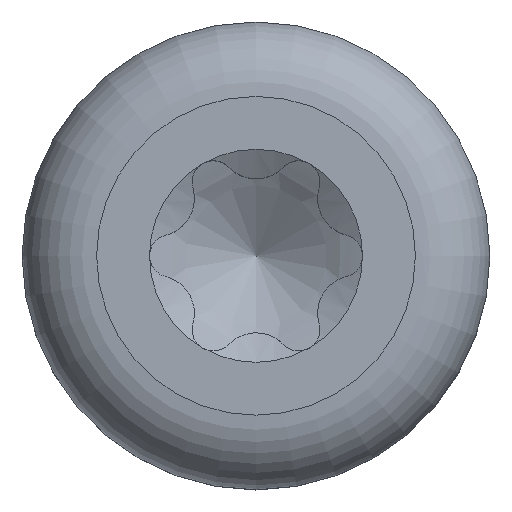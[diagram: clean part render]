
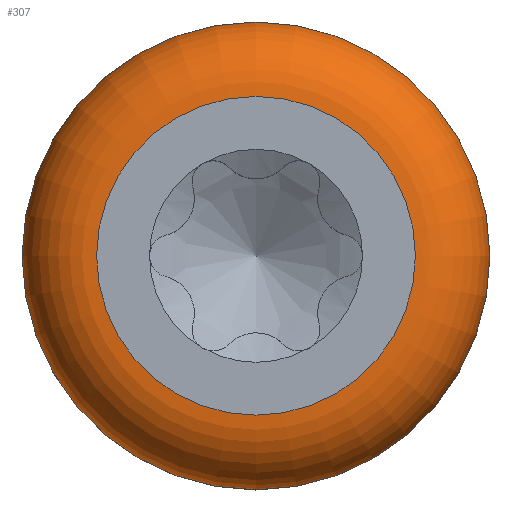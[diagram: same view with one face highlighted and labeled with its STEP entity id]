
A CAD part, top view. The second image highlights one B-rep face of the part: STEP entity #307.
In plain terms, the highlighted toroidal (fillet/blend) face has major radius 4.19 mm and minor radius 1.96 mm.
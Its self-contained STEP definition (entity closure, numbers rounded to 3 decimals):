
#276=TOROIDAL_SURFACE('',#1570,4.19,1.96);
#287=FACE_BOUND('',#512,.T.);
#288=FACE_BOUND('',#513,.T.);
#307=ADVANCED_FACE('',(#287,#288),#276,.T.);
#512=EDGE_LOOP('',(#685));
#513=EDGE_LOOP('',(#686));
#619=CIRCLE('',#1567,6.15);
#620=CIRCLE('',#1569,4.19);
#685=ORIENTED_EDGE('',*,*,#1254,.F.);
#686=ORIENTED_EDGE('',*,*,#1253,.T.);
#1117=VERTEX_POINT('',#3416);
#1118=VERTEX_POINT('',#3419);
#1253=EDGE_CURVE('',#1117,#1117,#619,.T.);
#1254=EDGE_CURVE('',#1118,#1118,#620,.T.);
#1567=AXIS2_PLACEMENT_3D('',#3415,#1635,#1636);
#1569=AXIS2_PLACEMENT_3D('',#3418,#1639,#1640);
#1570=AXIS2_PLACEMENT_3D('',#3420,#1641,#1642);
#1635=DIRECTION('',(0.,0.,1.));
#1636=DIRECTION('',(1.,0.,0.));
#1639=DIRECTION('',(0.,0.,1.));
#1640=DIRECTION('',(1.,0.,0.));
#1641=DIRECTION('',(0.,0.,1.));
#1642=DIRECTION('',(1.,0.,0.));
#3415=CARTESIAN_POINT('',(0.,0.,2.94));
#3416=CARTESIAN_POINT('',(6.15,0.,2.94));
#3418=CARTESIAN_POINT('',(0.,0.,4.9));
#3419=CARTESIAN_POINT('',(4.19,0.,4.9));
#3420=CARTESIAN_POINT('',(0.,0.,2.94));
